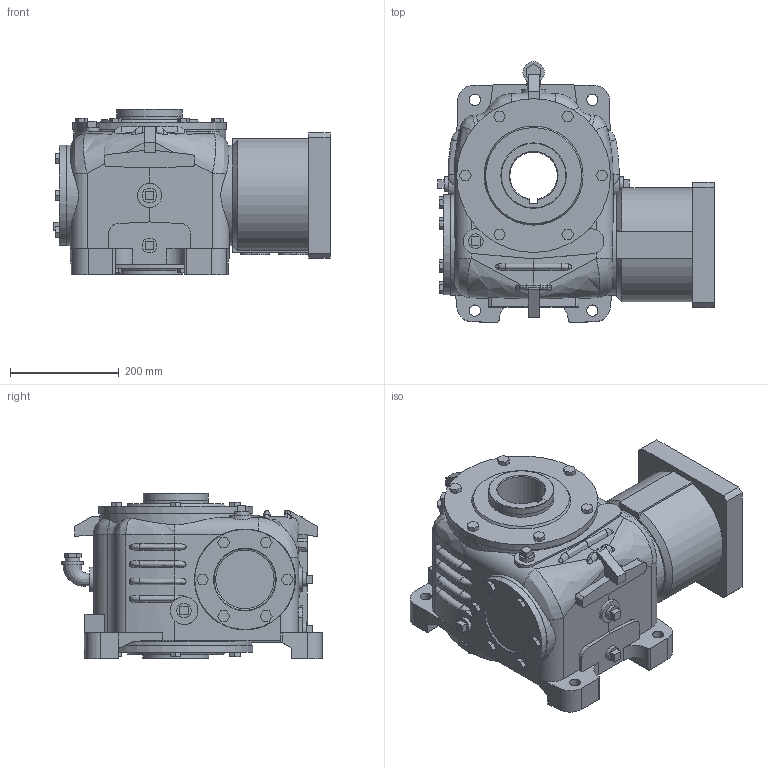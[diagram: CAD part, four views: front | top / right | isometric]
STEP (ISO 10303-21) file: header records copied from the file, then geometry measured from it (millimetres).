
FILE_DESCRIPTION(/* description */ ('Unknown'),/* implementation_level */ '2;1');
FILE_NAME(/* name */ 'V50CT-7AQ01NBD-',/* time_stamp */ '2024-11-21T11:31:58-05:00',/* author */ ('Unknown'),/* organization */ ('Unknown'),/* preprocessor_version */ 'ST-DEVELOPER v19.4',/* originating_system */ 'Solid Edge',/* authorisation */ 'Unknown');
FILE_SCHEMA (('AUTOMOTIVE_DESIGN {1 0 10303 214 3 1 1}'));
Length unit declared in the file: millimetre
Products named in the file (8): V50CT-7AQ01NBD-; 50-5-CP; 50-OUTHS-3437; 50-OUTH-3437; 50-WCAP; 50-SM20-CP; MP4Q-01-CP; KM400-N-32
Assembly tree (7 placements, depth 2):
  V50CT-7AQ01NBD-
    50-5-CP
    50-OUTHS-3437
    50-OUTH-3437
    50-WCAP
    50-SM20-CP
    MP4Q-01-CP
    KM400-N-32
Bounding box: 507.35 x 478.44 x 304.8 mm (x, y, z)
Volume: 29503223.3 mm3; surface area: 1708324.6 mm2
Topology: 7 solids, 7 shells, 612 faces, 1508 edges, 989 vertices
Faces by surface type: plane 397, cylinder 118, bspline 82, cone 14, torus 1
Full cylindrical faces by diameter (mm): 0.254 x7, 8.376 x4, 12.7 x8, 19.05 x6, 20.637 x4, 26.162 x1, 26.924 x5, 38.087 x1, 38.1 x1, 39.42 x1, 39.688 x1, 44.45 x2, 50.8 x2, 94 x1, 98.425 x1, 120.015 x3, 120.48 x2, 120.65 x1, 120.988 x1, 121.158 x1, 122 x1, 127 x1, 127.508 x1, 130 x1, 139 x1, 161.925 x1, 184.15 x1, 185.42 x2, 193.675 x1, 199.998 x1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
Entity records: 22899 total; most frequent: CARTESIAN_POINT 7502, ORIENTED_EDGE 2790, DIRECTION 2621, EDGE_CURVE 1395, VERTEX_POINT 962, LINE 915, VECTOR 915, AXIS2_PLACEMENT_3D 853
